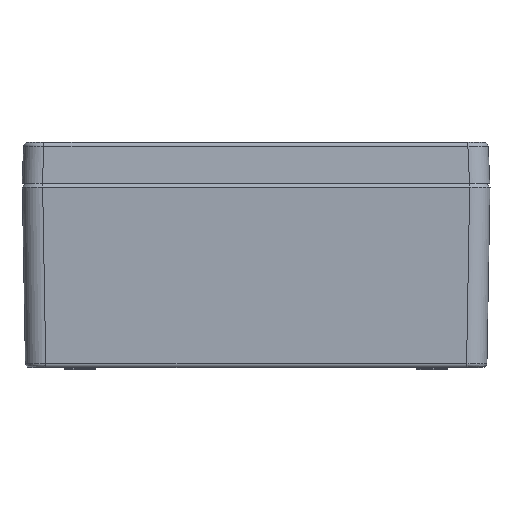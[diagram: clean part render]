
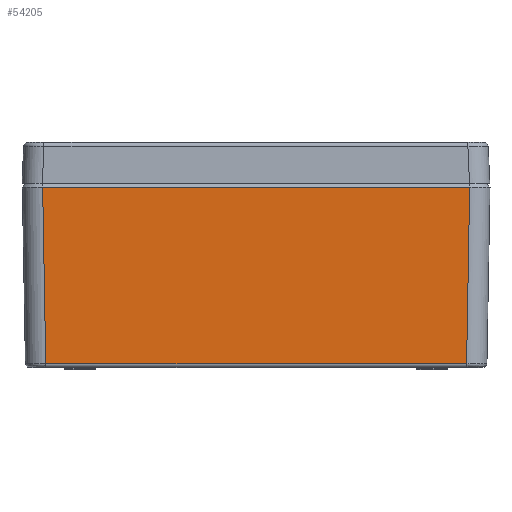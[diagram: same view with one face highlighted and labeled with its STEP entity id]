
A CAD part, left-side view. The second image highlights one B-rep face of the part: STEP entity #54205.
In plain terms, the highlighted planar face has unit normal (-1, 0, -0.018).
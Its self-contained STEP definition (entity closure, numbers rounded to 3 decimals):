
#5474 = CARTESIAN_POINT ( 'NONE',  ( -139.161, -104.023, -59.623 ) ) ;
#8302 = VERTEX_POINT ( 'NONE', #40118 ) ;
#14629 = EDGE_CURVE ( 'NONE', #66240, #58191, #23329, .T. ) ;
#15219 = LINE ( 'NONE', #47788, #51220 ) ;
#19248 = ORIENTED_EDGE ( 'NONE', *, *, #63979, .T. ) ;
#20396 = AXIS2_PLACEMENT_3D ( 'NONE', #58755, #32667, #38575 ) ;
#22544 = B_SPLINE_CURVE_WITH_KNOTS ( 'NONE', 3,
 ( #50608, #5474, #62474, #41410 ),
 .UNSPECIFIED., .F., .F.,
 ( 4, 4 ),
 ( 0., 1. ),
 .UNSPECIFIED. ) ;
#23285 = CARTESIAN_POINT ( 'NONE',  ( -140.171, 1.855, -1.8 ) ) ;
#23329 = LINE ( 'NONE', #51579, #34841 ) ;
#23893 = EDGE_CURVE ( 'NONE', #8302, #58191, #32506, .T. ) ;
#26540 = DIRECTION ( 'NONE',  ( 0., 1., 0. ) ) ;
#27021 = ORIENTED_EDGE ( 'NONE', *, *, #14629, .F. ) ;
#28363 = ORIENTED_EDGE ( 'NONE', *, *, #43788, .F. ) ;
#30872 = CARTESIAN_POINT ( 'NONE',  ( -140.171, 104.912, -1.8 ) ) ;
#32506 = LINE ( 'NONE', #23285, #55424 ) ;
#32667 = DIRECTION ( 'NONE',  ( -1., 0., -0.017 ) ) ;
#33105 = PLANE ( 'NONE',  #20396 ) ;
#34841 = VECTOR ( 'NONE', #55007, 1000. ) ;
#38370 = CARTESIAN_POINT ( 'NONE',  ( -138.657, 103.398, -88.535 ) ) ;
#38575 = DIRECTION ( 'NONE',  ( 0.017, 0., -1. ) ) ;
#40118 = CARTESIAN_POINT ( 'NONE',  ( -140.171, -105.032, -1.8 ) ) ;
#41410 = CARTESIAN_POINT ( 'NONE',  ( -140.171, -105.032, -1.8 ) ) ;
#43640 = DIRECTION ( 'NONE',  ( 0., 1., 0. ) ) ;
#43788 = EDGE_CURVE ( 'NONE', #60447, #66240, #15219, .T. ) ;
#47690 = FACE_OUTER_BOUND ( 'NONE', #53219, .T. ) ;
#47788 = CARTESIAN_POINT ( 'NONE',  ( -138.657, -0.06, -88.535 ) ) ;
#47884 = ORIENTED_EDGE ( 'NONE', *, *, #23893, .T. ) ;
#50608 = CARTESIAN_POINT ( 'NONE',  ( -138.657, -103.518, -88.535 ) ) ;
#51220 = VECTOR ( 'NONE', #26540, 1000. ) ;
#51579 = CARTESIAN_POINT ( 'NONE',  ( -139.498, 104.24, -40.323 ) ) ;
#53219 = EDGE_LOOP ( 'NONE', ( #47884, #27021, #28363, #19248 ) ) ;
#54205 = ADVANCED_FACE ( 'F59', ( #47690 ), #33105, .T. ) ;
#55007 = DIRECTION ( 'NONE',  ( -0.017, 0.017, 1. ) ) ;
#55424 = VECTOR ( 'NONE', #43640, 1000. ) ;
#57106 = CARTESIAN_POINT ( 'NONE',  ( -138.657, -103.518, -88.535 ) ) ;
#58191 = VERTEX_POINT ( 'NONE', #30872 ) ;
#58755 = CARTESIAN_POINT ( 'NONE',  ( -140.447, 119.24, 14.048 ) ) ;
#60447 = VERTEX_POINT ( 'NONE', #57106 ) ;
#62474 = CARTESIAN_POINT ( 'NONE',  ( -139.666, -104.527, -30.711 ) ) ;
#63979 = EDGE_CURVE ( 'NONE', #60447, #8302, #22544, .T. ) ;
#66240 = VERTEX_POINT ( 'NONE', #38370 ) ;
